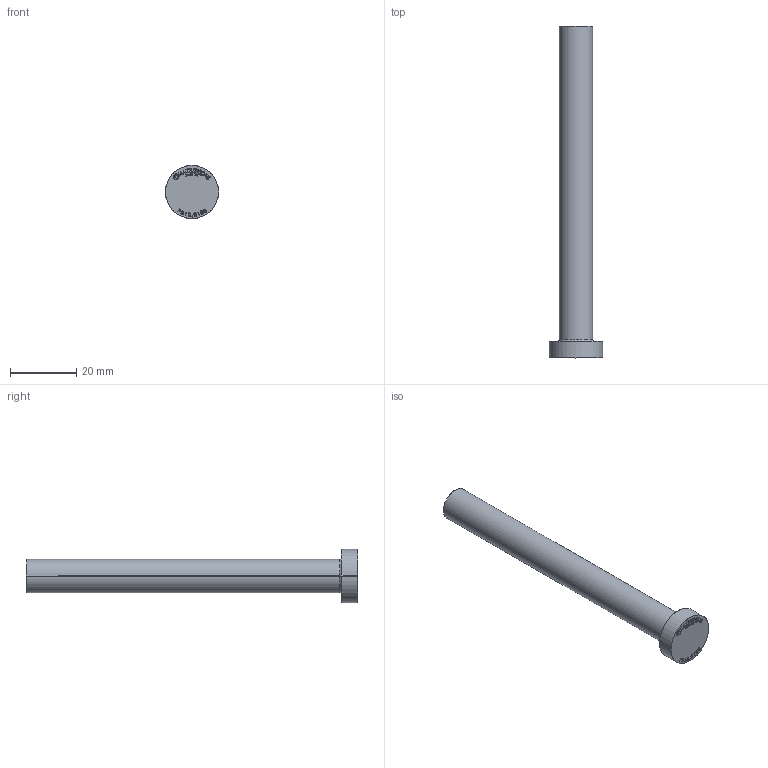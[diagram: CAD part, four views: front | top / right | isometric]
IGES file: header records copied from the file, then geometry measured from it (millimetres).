
Start section: SolidWorks IGES file using analytic representation for surfaces
Global section: file name: C:\Users\User\Downloads\Matripeça 31-08 tar\PB - PINO EXTRATOR TIPO _B_ (CATÁLOGO)\PB10,0\PB10,0100.IGS; native system: SolidWorks 2024; preprocessor: SolidWorks 2024; author: User; date: 260901.150121; units: millimetre
Bounding box: 16 x 100 x 16 mm (x, y, z)
Surface area: 3643.7 mm2 (no closed solid volume)
Topology: 0 solids, 0 shells, 388 faces, 3853 edges, 3853 vertices
Faces by surface type: bspline 374, revolution 14
